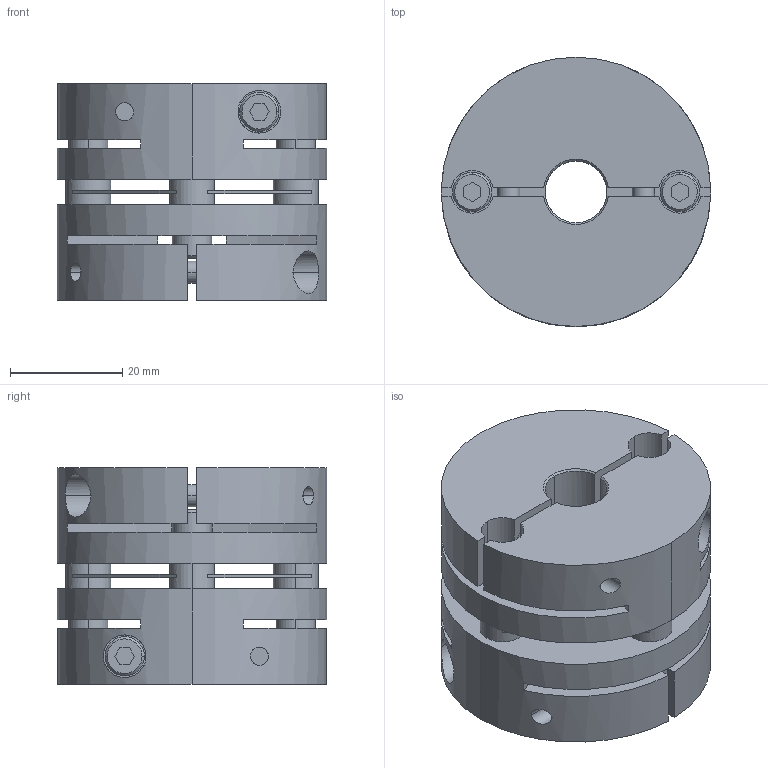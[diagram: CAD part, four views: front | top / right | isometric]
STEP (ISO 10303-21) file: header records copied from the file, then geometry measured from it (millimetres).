
FILE_DESCRIPTION((''),'2;1');
FILE_NAME('LAS-48C-11×15.stp','2015-10-14T15:38:14',(''),(''),'AutoCAD STEP 2000i','AutoCAD 2000i',', , ');
FILE_SCHEMA(('CONFIG_CONTROL_DESIGN'));
Length unit declared in the file: millimetre
Products named in the file (5): LAS-48C-12×12; 忣兜1; LA-4802-D12-1; LA-4802-D12; LAS48-ITA
Assembly tree (4 placements, depth 2):
  LAS-48C-12×12
    忣兜1
    LA-4802-D12-1
    LA-4802-D12
    LAS48-ITA
Bounding box: 48 x 48 x 38.6 mm (x, y, z)
Volume: 51039.2 mm3; surface area: 22648 mm2
Topology: 1 solids, 1 shells, 224 faces, 588 edges, 384 vertices
Faces by surface type: plane 112, cylinder 84, cone 28
Entity records: 7607 total; most frequent: CARTESIAN_POINT 1713, DIRECTION 1250, ORIENTED_EDGE 1176, EDGE_CURVE 588, AXIS2_PLACEMENT_3D 457, VERTEX_POINT 384, VECTOR 336, LINE 336
